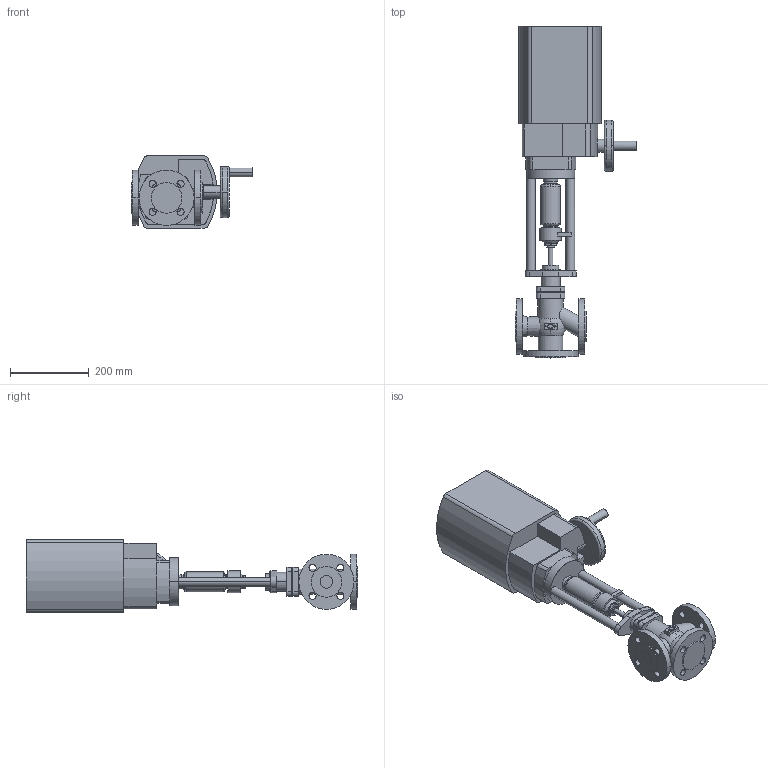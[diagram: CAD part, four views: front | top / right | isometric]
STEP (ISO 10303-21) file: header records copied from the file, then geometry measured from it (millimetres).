
FILE_DESCRIPTION( ( '' ), '1' );
FILE_NAME( 'F:/DE-SHS/TB/OR/04-Sonstiges/daten/files_3d/450-PREMIO-Plus-2G/c000006518.stp', '2017-02-22T12:50:32', ( '' ), ( '' ), ' ', ' ', ' ' );
FILE_SCHEMA( ( 'CONFIG_CONTROL_DESIGN' ) );
Length unit declared in the file: millimetre
Products named in the file (2): 1; 2
Bounding box: 309.05 x 843 x 184 mm (x, y, z)
Volume: 14092593 mm3; surface area: 620333.2 mm2
Topology: 2 solids, 2 shells, 240 faces, 605 edges, 397 vertices
Faces by surface type: cylinder 110, plane 103, torus 15, cone 12
Entity records: 7844 total; most frequent: CARTESIAN_POINT 1656, DIRECTION 1384, ORIENTED_EDGE 1210, EDGE_CURVE 605, AXIS2_PLACEMENT_3D 553, VERTEX_POINT 397, CIRCLE 309, EDGE_LOOP 292
